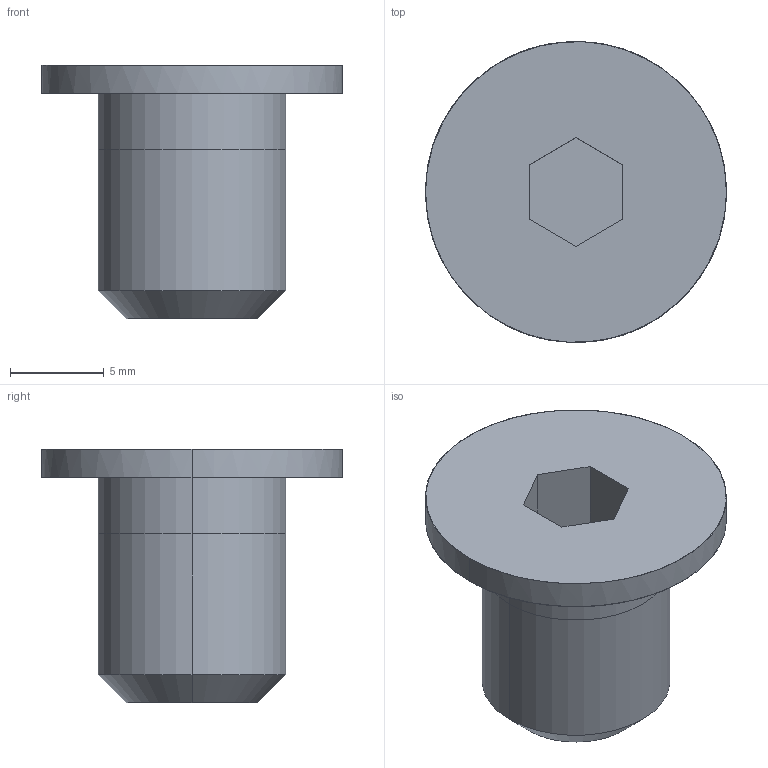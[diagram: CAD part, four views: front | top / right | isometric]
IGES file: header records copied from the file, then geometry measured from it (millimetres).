
Global section: file name: E:\UnigraphicsGraphicData\MISUMI_PRESS-PARTS\IGES\3d_cbss10-12_03498_r00.igs; native system: NX V5.0; preprocessor: UGS NX IGES V5.0; author: MISUMI; date: 20110105.160200; units: millimetre
Bounding box: 16 x 16 x 13.5 mm (x, y, z)
Surface area: 911.8 mm2 (no closed solid volume)
Topology: 0 solids, 0 shells, 18 faces, 100 edges, 100 vertices
Faces by surface type: bspline 18
